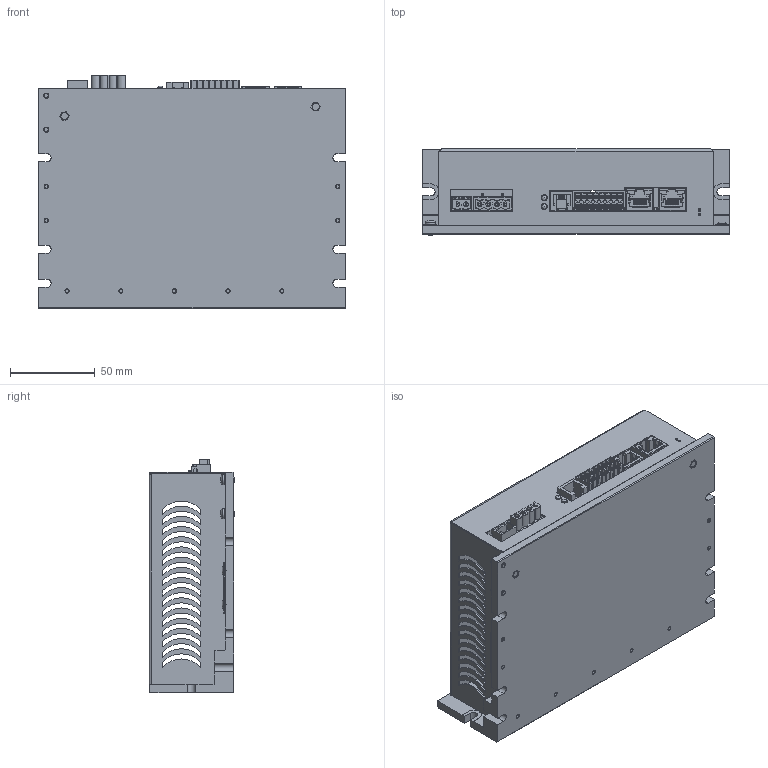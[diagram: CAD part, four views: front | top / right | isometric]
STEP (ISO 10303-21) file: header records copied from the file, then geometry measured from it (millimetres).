
FILE_DESCRIPTION(/* description */ ('Unknown'),/* implementation_level */ '2;1');
FILE_NAME(/* name */ 'SW3A9030H241-21',/* time_stamp */ '2021-09-01T12:19:20+02:00',/* author */ ('Unknown'),/* organization */ ('Unknown'),/* preprocessor_version */ 'ST-DEVELOPER v16.7',/* originating_system */ 'Solid Edge',/* authorisation */ 'Unknown');
FILE_SCHEMA (('AUTOMOTIVE_DESIGN {1 0 10303 214 3 1 1}'));
Products named in the file (44): SW3A90 con ETD01; estruso_sw3a90_ETD01_inserti; estruso_sw3a90_ETD01; inserto_m2_5x12mm; ad_01121_sw5a9030_isd04; ETD01-00_oa_0; Board; Open CASCADE STEP translator 6.8 1.1.1; LED503; LED_HSMx-C680; LED500; CN5B; c-1-406541-5-l1-3d; CN5A; CN3; 1786895; dmc_1.5-8-g1-3.5; Q404; User_Library-TO252AA; CN2; 1731086; GL500; 5151061f; SW501_oa_1; SW500_oa_2; Q406; Q407; Q405; Q402; Q403; Q400; Q401; CN6; 955012641; Open CASCADE STEP translator 6.8 1.19.1.1; Open CASCADE STEP translator 6.8 1.19.1.2; CN1; CA02MHLT5.08B_1757242; MSTBA_2_5-2-G-5_08-72070_ASM; MSTBA_2_5-2-G-5_08-69580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
Assembly tree (65 placements, depth 6):
  SW3A90 con ETD01
    estruso_sw3a90_ETD01_inserti
      estruso_sw3a90_ETD01
      inserto_m2_5x12mm  x2
    ad_01121_sw5a9030_isd04
    ETD01-00_oa_0
      Board
        Open CASCADE STEP translator 6.8 1.1.1
      LED503
        LED_HSMx-C680
      LED500
        LED_HSMx-C680
      CN5B
        c-1-406541-5-l1-3d
      CN5A
        c-1-406541-5-l1-3d
      CN3
        1786895
          dmc_1.5-8-g1-3.5
      Q404
        User_Library-TO252AA
      CN2
        1731086
      GL500
        5151061f
      SW501_oa_1
      SW500_oa_2
      Q406
        User_Library-TO252AA
      Q407
        User_Library-TO252AA
      Q405
        User_Library-TO252AA
      Q402
        User_Library-TO252AA
      Q403
        User_Library-TO252AA
      Q400
        User_Library-TO252AA
      Q401
        User_Library-TO252AA
      CN6
        955012641
          Open CASCADE STEP translator 6.8 1.19.1.1
          Open CASCADE STEP translator 6.8 1.19.1.2
      CN1
        CA02MHLT5.08B_1757242
          MSTBA_2_5-2-G-5_08-72070_ASM
            MSTBA_2_5-2-G-5_08-69580
    tcc_M2e5x05  x11
    scatola_sw3a9030_etd01
    dentellata_M3  x2
    tcc_M3x06  x2
Bounding box: 180.7 x 50.65 x 137.61 mm (x, y, z)
Volume: 248178.4 mm3; surface area: 204020.5 mm2
Topology: 37 solids, 53 shells, 5056 faces, 13759 edges, 8849 vertices
Faces by surface type: plane 3164, cylinder 1302, bspline 233, cone 219, sphere 78, torus 60
Full cylindrical faces by diameter (mm): 0.434 x1, 0.457 x2, 0.75 x8, 0.762 x32, 0.9 x20, 1 x17, 1.016 x4, 1.2 x4, 1.27 x2, 1.397 x1, 1.4 x30, 1.5 x6, 1.524 x12, 1.53 x1, 1.55 x1, 1.6 x4, 1.778 x4, 2.032 x6, 2.05 x11, 2.5 x27, 2.7 x7, 2.75 x2, 2.8 x4, 3 x8, 3.048 x2, 3.2 x4, 3.25 x4, 3.6 x2, 3.76 x2, 4.11 x2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
Entity records: 137382 total; most frequent: CARTESIAN_POINT 27287, ORIENTED_EDGE 18820, DIRECTION 17798, EDGE_CURVE 9468, VERTEX_POINT 6344, LINE 6254, VECTOR 6254, AXIS2_PLACEMENT_3D 5772
